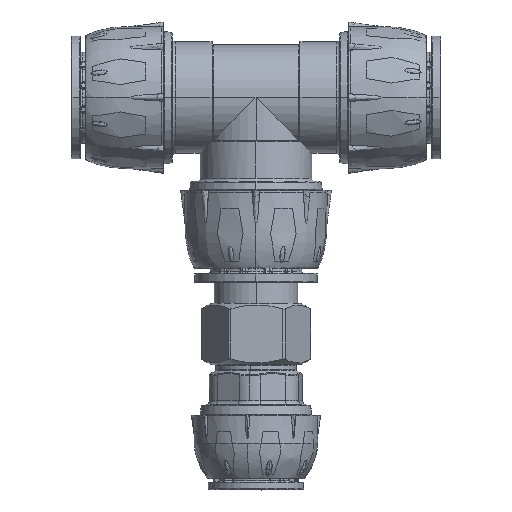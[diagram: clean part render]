
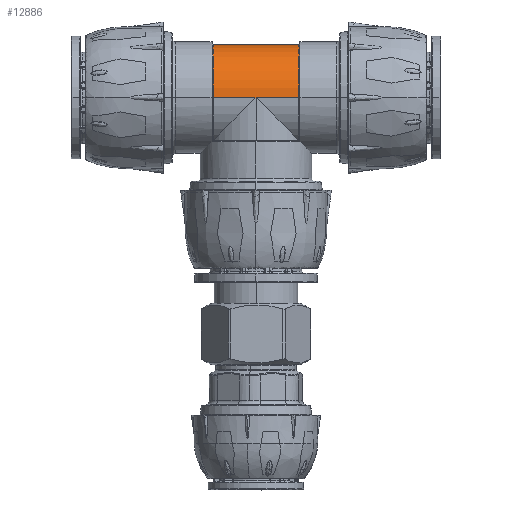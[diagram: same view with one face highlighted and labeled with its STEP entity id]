
A CAD part, top view. The second image highlights one B-rep face of the part: STEP entity #12886.
In plain terms, the highlighted cylindrical face has radius 17.65 mm (diameter 35.3 mm), a partial arc.
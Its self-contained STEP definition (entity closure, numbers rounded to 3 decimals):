
#261 = CARTESIAN_POINT ( 'NONE',  ( 0., 0., 17.65 ) ) ;
#1200 = CARTESIAN_POINT ( 'NONE',  ( 0., -14.3, 0. ) ) ;
#1658 = ORIENTED_EDGE ( 'NONE', *, *, #31414, .F. ) ;
#6592 = ORIENTED_EDGE ( 'NONE', *, *, #7243, .T. ) ;
#7243 = EDGE_CURVE ( 'NONE', #73912, #97406, #50052, .T. ) ;
#8048 = DIRECTION ( 'NONE',  ( 0., -1., 0. ) ) ;
#10303 = CARTESIAN_POINT ( 'NONE',  ( 0., 0., -17.65 ) ) ;
#12886 = ADVANCED_FACE ( 'NONE', ( #85953 ), #108671, .T. ) ;
#14842 = VERTEX_POINT ( 'NONE', #102740 ) ;
#17542 = VERTEX_POINT ( 'NONE', #51099 ) ;
#21999 = DIRECTION ( 'NONE',  ( 0., -1., 0. ) ) ;
#24226 = CARTESIAN_POINT ( 'NONE',  ( 0., 14.3, 0. ) ) ;
#25977 = VERTEX_POINT ( 'NONE', #96717 ) ;
#27464 = DIRECTION ( 'NONE',  ( 0., -1., 0. ) ) ;
#28921 = LINE ( 'NONE', #68244, #34606 ) ;
#30003 = CARTESIAN_POINT ( 'NONE',  ( 0., 14.3, 17.65 ) ) ;
#31414 = EDGE_CURVE ( 'NONE', #14842, #25977, #33113, .T. ) ;
#33113 = LINE ( 'NONE', #10303, #106597 ) ;
#33304 = DIRECTION ( 'NONE',  ( 0., 0., 1. ) ) ;
#34606 = VECTOR ( 'NONE', #21999, 1000. ) ;
#35779 = CARTESIAN_POINT ( 'NONE',  ( 0., 0., 0. ) ) ;
#40074 = VERTEX_POINT ( 'NONE', #98324 ) ;
#45638 = DIRECTION ( 'NONE',  ( 0., 0., -1. ) ) ;
#47228 = VECTOR ( 'NONE', #8048, 1000. ) ;
#50052 = LINE ( 'NONE', #70118, #47228 ) ;
#50317 = AXIS2_PLACEMENT_3D ( 'NONE', #35779, #27464, #45638 ) ;
#50352 = ORIENTED_EDGE ( 'NONE', *, *, #61904, .T. ) ;
#51099 = CARTESIAN_POINT ( 'NONE',  ( 0., 14.3, -17.65 ) ) ;
#51289 = VECTOR ( 'NONE', #112356, 1000. ) ;
#61904 = EDGE_CURVE ( 'NONE', #17542, #73912, #98060, .T. ) ;
#65620 = DIRECTION ( 'NONE',  ( 0., -1., 0. ) ) ;
#68244 = CARTESIAN_POINT ( 'NONE',  ( 0., 0., -17.65 ) ) ;
#68554 = CARTESIAN_POINT ( 'NONE',  ( 0., 0., 17.65 ) ) ;
#70118 = CARTESIAN_POINT ( 'NONE',  ( 0., 0., 17.65 ) ) ;
#73912 = VERTEX_POINT ( 'NONE', #30003 ) ;
#82266 = ORIENTED_EDGE ( 'NONE', *, *, #99977, .T. ) ;
#82916 = DIRECTION ( 'NONE',  ( 0., 1., 0. ) ) ;
#84128 = EDGE_CURVE ( 'NONE', #17542, #14842, #28921, .T. ) ;
#85205 = EDGE_LOOP ( 'NONE', ( #50352, #6592, #111392, #82266, #1658, #89704 ) ) ;
#85953 = FACE_OUTER_BOUND ( 'NONE', #85205, .T. ) ;
#87839 = DIRECTION ( 'NONE',  ( 0., -1., 0. ) ) ;
#89704 = ORIENTED_EDGE ( 'NONE', *, *, #84128, .F. ) ;
#90090 = CIRCLE ( 'NONE', #110313, 17.65 ) ;
#92037 = DIRECTION ( 'NONE',  ( 0., 0., -1. ) ) ;
#96717 = CARTESIAN_POINT ( 'NONE',  ( 0., -14.3, -17.65 ) ) ;
#97406 = VERTEX_POINT ( 'NONE', #261 ) ;
#98060 = CIRCLE ( 'NONE', #110837, 17.65 ) ;
#98324 = CARTESIAN_POINT ( 'NONE',  ( 0., -14.3, 17.65 ) ) ;
#99977 = EDGE_CURVE ( 'NONE', #40074, #25977, #90090, .T. ) ;
#102740 = CARTESIAN_POINT ( 'NONE',  ( 0., 0., -17.65 ) ) ;
#106597 = VECTOR ( 'NONE', #65620, 1000. ) ;
#107822 = LINE ( 'NONE', #68554, #51289 ) ;
#108671 = CYLINDRICAL_SURFACE ( 'NONE', #50317, 17.65 ) ;
#110313 = AXIS2_PLACEMENT_3D ( 'NONE', #1200, #82916, #92037 ) ;
#110837 = AXIS2_PLACEMENT_3D ( 'NONE', #24226, #87839, #33304 ) ;
#111392 = ORIENTED_EDGE ( 'NONE', *, *, #116618, .T. ) ;
#112356 = DIRECTION ( 'NONE',  ( 0., -1., 0. ) ) ;
#116618 = EDGE_CURVE ( 'NONE', #97406, #40074, #107822, .T. ) ;
